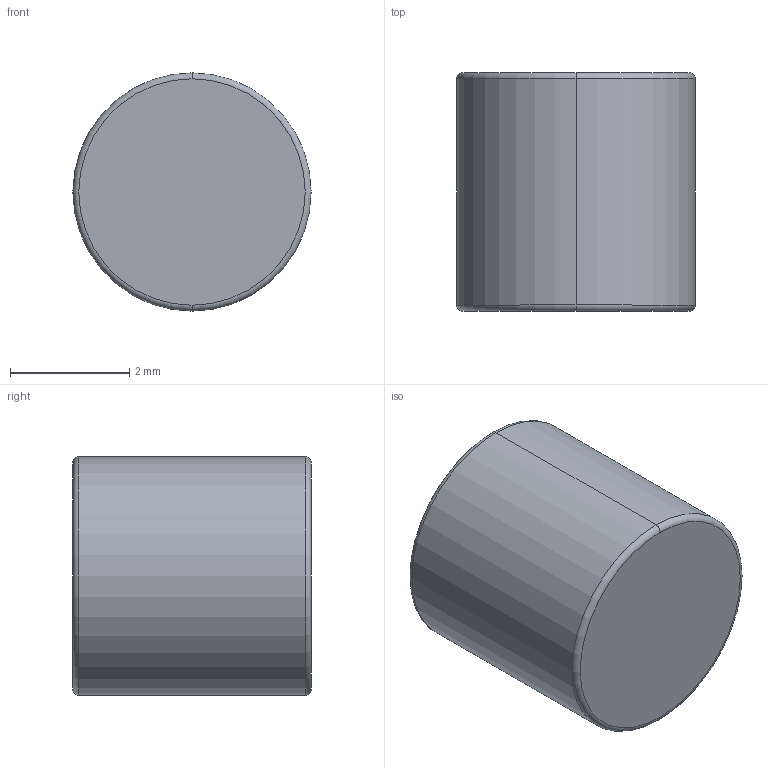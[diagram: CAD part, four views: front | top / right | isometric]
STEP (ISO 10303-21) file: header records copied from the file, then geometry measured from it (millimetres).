
FILE_DESCRIPTION (( 'STEP AP203' ), '1' );
FILE_NAME ('MAG001D02_00.STEP', '2022-07-27T12:21:39', ( '' ), ( '' ), 'SwSTEP 2.0', 'SolidWorks 2020', '' );
FILE_SCHEMA (( 'CONFIG_CONTROL_DESIGN' ));
Length unit declared in the file: millimetre
Products named in the file (1): MAG001D02_00
Bounding box: 4 x 4 x 4 mm (x, y, z)
Volume: 50.2 mm3; surface area: 74.3 mm2
Topology: 1 solids, 1 shells, 8 faces, 14 edges, 8 vertices
Faces by surface type: torus 4, cylinder 2, plane 2
Entity records: 275 total; most frequent: DIRECTION 44, CARTESIAN_POINT 31, ORIENTED_EDGE 28, AXIS2_PLACEMENT_3D 21, EDGE_CURVE 14, CIRCLE 12, FACE_OUTER_BOUND 8, EDGE_LOOP 8
